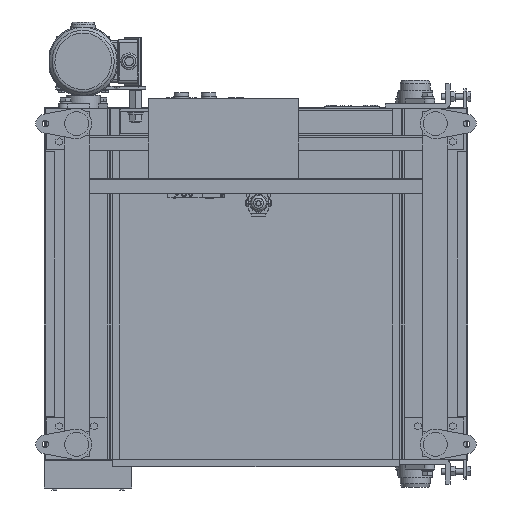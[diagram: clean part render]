
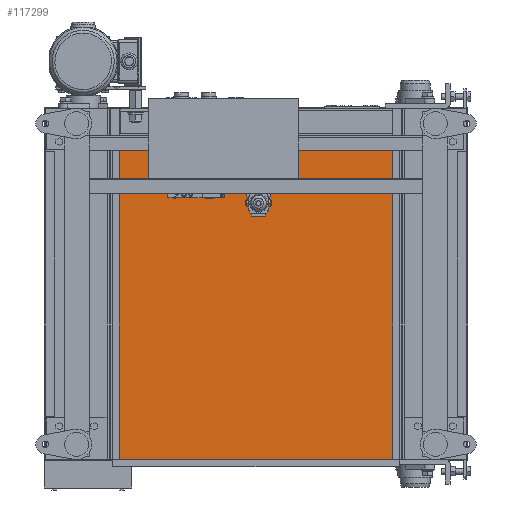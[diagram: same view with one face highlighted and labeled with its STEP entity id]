
A CAD part, front view. The second image highlights one B-rep face of the part: STEP entity #117299.
In plain terms, the highlighted planar face has unit normal (0, -1, 0).
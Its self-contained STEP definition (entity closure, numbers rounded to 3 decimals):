
#4435 = LINE ( 'NONE', #85581, #23494 ) ;
#5259 = LINE ( 'NONE', #31303, #55245 ) ;
#13265 = ORIENTED_EDGE ( 'NONE', *, *, #78646, .F. ) ;
#23109 = PLANE ( 'NONE',  #84103 ) ;
#23494 = VECTOR ( 'NONE', #29845, 1000. ) ;
#24353 = CARTESIAN_POINT ( 'NONE',  ( 712.5, -165., -353.2 ) ) ;
#29845 = DIRECTION ( 'NONE',  ( 1., 0., 0. ) ) ;
#31303 = CARTESIAN_POINT ( 'NONE',  ( 712.5, -165., 286. ) ) ;
#39151 = VECTOR ( 'NONE', #136992, 1000. ) ;
#43104 = EDGE_LOOP ( 'NONE', ( #13265, #136526, #140705, #69507 ) ) ;
#47208 = CARTESIAN_POINT ( 'NONE',  ( 712.5, -165., 286. ) ) ;
#52855 = CARTESIAN_POINT ( 'NONE',  ( 712.5, -165., -353.2 ) ) ;
#55245 = VECTOR ( 'NONE', #76973, 1000. ) ;
#57297 = CARTESIAN_POINT ( 'NONE',  ( 137.5, -165., -353.2 ) ) ;
#58109 = EDGE_CURVE ( 'NONE', #111567, #113852, #116544, .T. ) ;
#60630 = CARTESIAN_POINT ( 'NONE',  ( 137.5, -165., 286. ) ) ;
#62809 = FACE_OUTER_BOUND ( 'NONE', #43104, .T. ) ;
#62948 = DIRECTION ( 'NONE',  ( -1., 0., 0. ) ) ;
#69507 = ORIENTED_EDGE ( 'NONE', *, *, #131627, .F. ) ;
#73685 = LINE ( 'NONE', #52855, #111383 ) ;
#76941 = DIRECTION ( 'NONE',  ( 0., 0., -1. ) ) ;
#76973 = DIRECTION ( 'NONE',  ( 0., 0., -1. ) ) ;
#77404 = DIRECTION ( 'NONE',  ( 0., 1., 0. ) ) ;
#78646 = EDGE_CURVE ( 'NONE', #95911, #121420, #5259, .T. ) ;
#83258 = EDGE_CURVE ( 'NONE', #113852, #95911, #4435, .T. ) ;
#84103 = AXIS2_PLACEMENT_3D ( 'NONE', #100005, #77404, #76941 ) ;
#85581 = CARTESIAN_POINT ( 'NONE',  ( 712.5, -165., 286. ) ) ;
#95911 = VERTEX_POINT ( 'NONE', #47208 ) ;
#99895 = CARTESIAN_POINT ( 'NONE',  ( 137.5, -165., 286. ) ) ;
#100005 = CARTESIAN_POINT ( 'NONE',  ( 425., -165., -352. ) ) ;
#111383 = VECTOR ( 'NONE', #62948, 1000. ) ;
#111567 = VERTEX_POINT ( 'NONE', #57297 ) ;
#113852 = VERTEX_POINT ( 'NONE', #60630 ) ;
#116544 = LINE ( 'NONE', #99895, #39151 ) ;
#117299 = ADVANCED_FACE ( 'NONE', ( #62809 ), #23109, .F. ) ;
#121420 = VERTEX_POINT ( 'NONE', #24353 ) ;
#131627 = EDGE_CURVE ( 'NONE', #121420, #111567, #73685, .T. ) ;
#136526 = ORIENTED_EDGE ( 'NONE', *, *, #83258, .F. ) ;
#136992 = DIRECTION ( 'NONE',  ( 0., 0., 1. ) ) ;
#140705 = ORIENTED_EDGE ( 'NONE', *, *, #58109, .F. ) ;
